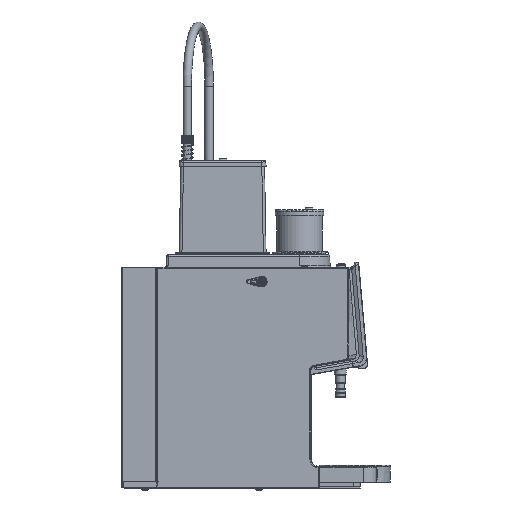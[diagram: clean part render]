
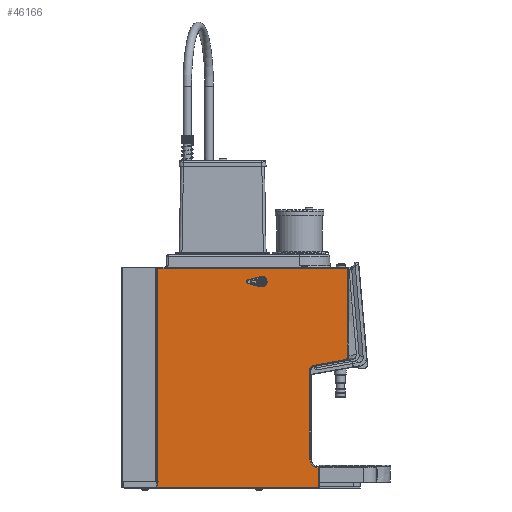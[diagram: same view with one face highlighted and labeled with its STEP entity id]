
A CAD part, left-side view. The second image highlights one B-rep face of the part: STEP entity #46166.
In plain terms, the highlighted planar face has unit normal (-1, 0, 0).
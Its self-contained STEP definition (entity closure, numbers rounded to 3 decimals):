
#851=FACE_BOUND('',#7105,.T.);
#2229=PLANE('',#50406);
#4288=FACE_OUTER_BOUND('',#7104,.T.);
#7104=EDGE_LOOP('',(#37871,#37872,#37873,#37874,#37875,#37876,#37877,#37878,
#37879,#37880,#37881,#37882,#37883,#37884,#37885));
#7105=EDGE_LOOP('',(#37886,#37887,#37888,#37889,#37890,#37891));
#9357=CIRCLE('',#49234,1.5);
#9370=CIRCLE('',#49255,22.95);
#9371=CIRCLE('',#49258,12.95);
#9372=CIRCLE('',#49261,8.782);
#9377=CIRCLE('',#49273,12.5);
#9379=CIRCLE('',#49276,5.);
#9402=CIRCLE('',#49312,12.5);
#12679=LINE('',#76193,#16198);
#12680=LINE('',#76197,#16199);
#12684=LINE('',#76205,#16203);
#12692=LINE('',#76227,#16211);
#12701=LINE('',#76253,#16220);
#12713=LINE('',#76291,#16232);
#12716=LINE('',#76299,#16235);
#12729=LINE('',#76334,#16248);
#12741=LINE('',#76419,#16260);
#12743=LINE('',#76425,#16262);
#13109=LINE('',#77631,#16628);
#13111=LINE('',#77634,#16630);
#13727=LINE('',#79491,#17246);
#13728=LINE('',#79492,#17247);
#16198=VECTOR('',#57487,10.);
#16199=VECTOR('',#57490,10.);
#16203=VECTOR('',#57496,10.);
#16211=VECTOR('',#57514,10.);
#16220=VECTOR('',#57539,10.);
#16232=VECTOR('',#57573,10.);
#16235=VECTOR('',#57582,10.);
#16248=VECTOR('',#57617,10.);
#16260=VECTOR('',#57709,10.);
#16262=VECTOR('',#57717,10.);
#16628=VECTOR('',#58791,10.);
#16630=VECTOR('',#58795,10.);
#17246=VECTOR('',#60887,10.);
#17247=VECTOR('',#60888,10.);
#20088=VERTEX_POINT('',#76153);
#20099=VERTEX_POINT('',#76191);
#20100=VERTEX_POINT('',#76195);
#20101=VERTEX_POINT('',#76196);
#20104=VERTEX_POINT('',#76204);
#20106=VERTEX_POINT('',#76210);
#20109=VERTEX_POINT('',#76217);
#20113=VERTEX_POINT('',#76225);
#20136=VERTEX_POINT('',#76286);
#20137=VERTEX_POINT('',#76290);
#20138=VERTEX_POINT('',#76294);
#20139=VERTEX_POINT('',#76298);
#20140=VERTEX_POINT('',#76302);
#20149=VERTEX_POINT('',#76331);
#20150=VERTEX_POINT('',#76333);
#20152=VERTEX_POINT('',#76339);
#20154=VERTEX_POINT('',#76345);
#20177=VERTEX_POINT('',#76417);
#20178=VERTEX_POINT('',#76421);
#20648=VERTEX_POINT('',#77629);
#21127=VERTEX_POINT('',#79490);
#25465=EDGE_CURVE('',#20099,#20088,#12679,.T.);
#25466=EDGE_CURVE('',#20100,#20101,#12680,.T.);
#25470=EDGE_CURVE('',#20101,#20104,#12684,.T.);
#25473=EDGE_CURVE('',#20104,#20106,#9357,.T.);
#25481=EDGE_CURVE('',#20109,#20113,#12692,.T.);
#25494=EDGE_CURVE('',#20099,#20100,#12701,.T.);
#25511=EDGE_CURVE('',#20113,#20136,#9370,.T.);
#25513=EDGE_CURVE('',#20136,#20137,#12713,.T.);
#25515=EDGE_CURVE('',#20137,#20138,#9371,.T.);
#25517=EDGE_CURVE('',#20138,#20139,#12716,.T.);
#25519=EDGE_CURVE('',#20139,#20140,#9372,.T.);
#25534=EDGE_CURVE('',#20150,#20149,#12729,.T.);
#25537=EDGE_CURVE('',#20152,#20150,#9377,.T.);
#25541=EDGE_CURVE('',#20149,#20154,#9379,.T.);
#25574=EDGE_CURVE('',#20154,#20177,#12741,.T.);
#25576=EDGE_CURVE('',#20177,#20178,#9402,.T.);
#25577=EDGE_CURVE('',#20178,#20152,#12743,.T.);
#26176=EDGE_CURVE('',#20140,#20648,#13109,.T.);
#26178=EDGE_CURVE('',#20088,#20648,#13111,.T.);
#27059=EDGE_CURVE('',#20109,#21127,#13727,.T.);
#27060=EDGE_CURVE('',#20106,#21127,#13728,.T.);
#37871=ORIENTED_EDGE('',*,*,#27059,.F.);
#37872=ORIENTED_EDGE('',*,*,#25481,.T.);
#37873=ORIENTED_EDGE('',*,*,#25511,.T.);
#37874=ORIENTED_EDGE('',*,*,#25513,.T.);
#37875=ORIENTED_EDGE('',*,*,#25515,.T.);
#37876=ORIENTED_EDGE('',*,*,#25517,.T.);
#37877=ORIENTED_EDGE('',*,*,#25519,.T.);
#37878=ORIENTED_EDGE('',*,*,#26176,.T.);
#37879=ORIENTED_EDGE('',*,*,#26178,.F.);
#37880=ORIENTED_EDGE('',*,*,#25465,.F.);
#37881=ORIENTED_EDGE('',*,*,#25494,.T.);
#37882=ORIENTED_EDGE('',*,*,#25466,.T.);
#37883=ORIENTED_EDGE('',*,*,#25470,.T.);
#37884=ORIENTED_EDGE('',*,*,#25473,.T.);
#37885=ORIENTED_EDGE('',*,*,#27060,.T.);
#37886=ORIENTED_EDGE('',*,*,#25541,.T.);
#37887=ORIENTED_EDGE('',*,*,#25574,.T.);
#37888=ORIENTED_EDGE('',*,*,#25576,.T.);
#37889=ORIENTED_EDGE('',*,*,#25577,.T.);
#37890=ORIENTED_EDGE('',*,*,#25537,.T.);
#37891=ORIENTED_EDGE('',*,*,#25534,.T.);
#46166=ADVANCED_FACE('',(#4288,#851),#2229,.F.);
#49234=AXIS2_PLACEMENT_3D('',#76211,#57501,#57502);
#49255=AXIS2_PLACEMENT_3D('',#76287,#57568,#57569);
#49258=AXIS2_PLACEMENT_3D('',#76295,#57577,#57578);
#49261=AXIS2_PLACEMENT_3D('',#76303,#57586,#57587);
#49273=AXIS2_PLACEMENT_3D('',#76340,#57623,#57624);
#49276=AXIS2_PLACEMENT_3D('',#76347,#57631,#57632);
#49312=AXIS2_PLACEMENT_3D('',#76423,#57713,#57714);
#50406=AXIS2_PLACEMENT_3D('',#79489,#60885,#60886);
#57487=DIRECTION('',(0.,0.,1.));
#57490=DIRECTION('',(0.,0.,-1.));
#57496=DIRECTION('',(0.,1.,0.));
#57501=DIRECTION('center_axis',(-1.,0.,0.));
#57502=DIRECTION('ref_axis',(0.,0.,-1.));
#57514=DIRECTION('',(0.,0.,1.));
#57539=DIRECTION('',(0.,-1.,0.));
#57568=DIRECTION('center_axis',(1.,0.,0.));
#57569=DIRECTION('ref_axis',(0.,1.,0.));
#57573=DIRECTION('',(0.,0.,1.));
#57577=DIRECTION('center_axis',(1.,0.,0.));
#57578=DIRECTION('ref_axis',(0.,0.174,0.985));
#57582=DIRECTION('',(0.,-0.985,0.174));
#57586=DIRECTION('center_axis',(-1.,0.,0.));
#57587=DIRECTION('ref_axis',(0.,0.174,0.985));
#57617=DIRECTION('',(0.,0.972,0.234));
#57623=DIRECTION('center_axis',(1.,0.,0.));
#57624=DIRECTION('ref_axis',(0.,0.234,-0.972));
#57631=DIRECTION('center_axis',(1.,0.,0.));
#57632=DIRECTION('ref_axis',(0.,1.,0.));
#57709=DIRECTION('',(0.,-0.972,0.234));
#57713=DIRECTION('center_axis',(1.,0.,0.));
#57714=DIRECTION('ref_axis',(0.,0.234,0.972));
#57717=DIRECTION('',(0.,0.,-1.));
#58791=DIRECTION('',(0.,0.,1.));
#58795=DIRECTION('',(0.,-1.,0.));
#60885=DIRECTION('center_axis',(1.,0.,0.));
#60886=DIRECTION('ref_axis',(0.,0.,-1.));
#60887=DIRECTION('',(0.,1.,0.));
#60888=DIRECTION('',(0.,0.,-1.));
#76153=CARTESIAN_POINT('',(-225.,518.,526.5));
#76191=CARTESIAN_POINT('',(-225.,518.,19.5));
#76193=CARTESIAN_POINT('',(-225.,518.,526.5));
#76195=CARTESIAN_POINT('',(-225.,517.65,19.5));
#76196=CARTESIAN_POINT('',(-225.,517.65,19.));
#76197=CARTESIAN_POINT('',(-225.,517.65,136.255));
#76204=CARTESIAN_POINT('',(-225.,518.5,19.));
#76205=CARTESIAN_POINT('',(-225.,409.494,19.));
#76210=CARTESIAN_POINT('',(-225.,520.,17.5));
#76211=CARTESIAN_POINT('Origin',(-225.,518.5,17.5));
#76217=CARTESIAN_POINT('',(-225.,137.15,7.));
#76225=CARTESIAN_POINT('',(-225.,137.15,52.651));
#76227=CARTESIAN_POINT('',(-225.,137.15,130.255));
#76253=CARTESIAN_POINT('',(-225.,412.344,19.5));
#76286=CARTESIAN_POINT('',(-225.,157.95,75.5));
#76287=CARTESIAN_POINT('Origin',(-225.,135.,75.5));
#76290=CARTESIAN_POINT('',(-225.,157.95,283.506));
#76291=CARTESIAN_POINT('',(-225.,157.95,164.255));
#76294=CARTESIAN_POINT('',(-225.,147.249,296.26));
#76295=CARTESIAN_POINT('Origin',(-225.,145.,283.506));
#76298=CARTESIAN_POINT('',(-225.,74.407,309.104));
#76299=CARTESIAN_POINT('',(-225.,225.668,282.432));
#76302=CARTESIAN_POINT('',(-225.,67.15,317.752));
#76303=CARTESIAN_POINT('Origin',(-225.,75.932,317.752));
#76331=CARTESIAN_POINT('',(-225.,304.172,489.639));
#76333=CARTESIAN_POINT('',(-225.,273.93,482.348));
#76334=CARTESIAN_POINT('',(-225.,275.875,482.817));
#76339=CARTESIAN_POINT('',(-225.,260.,488.563));
#76340=CARTESIAN_POINT('Origin',(-225.,271.,494.5));
#76345=CARTESIAN_POINT('',(-225.,304.172,499.361));
#76347=CARTESIAN_POINT('Origin',(-225.,303.,494.5));
#76417=CARTESIAN_POINT('',(-225.,273.93,506.652));
#76419=CARTESIAN_POINT('',(-225.,330.897,492.917));
#76421=CARTESIAN_POINT('',(-225.,260.,500.437));
#76423=CARTESIAN_POINT('Origin',(-225.,271.,494.5));
#76425=CARTESIAN_POINT('',(-225.,260.,370.787));
#77629=CARTESIAN_POINT('',(-225.,67.15,526.5));
#77631=CARTESIAN_POINT('',(-225.,67.15,390.755));
#77634=CARTESIAN_POINT('',(-225.,453.169,526.5));
#79489=CARTESIAN_POINT('Origin',(-225.,301.337,253.011));
#79490=CARTESIAN_POINT('',(-225.,520.,7.));
#79491=CARTESIAN_POINT('',(-225.,410.669,7.));
#79492=CARTESIAN_POINT('',(-225.,520.,135.255));
